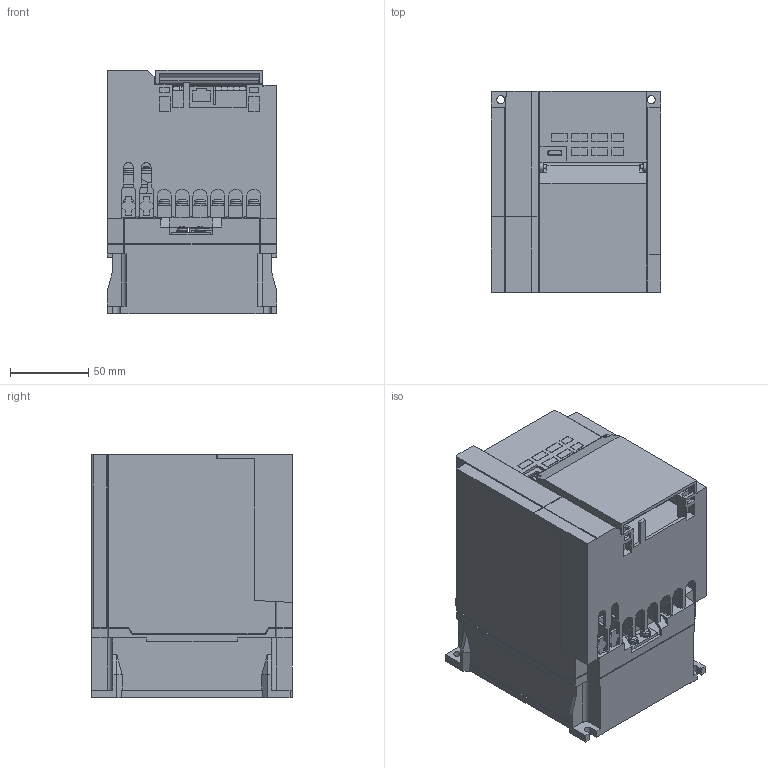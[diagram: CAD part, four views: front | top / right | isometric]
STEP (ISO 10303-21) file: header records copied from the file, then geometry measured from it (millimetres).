
FILE_DESCRIPTION((''),'2;1');
FILE_NAME('3D-INV-52_06_ASM','2024-11-26T14:21:52',('CT89920'),(''),'CREO PARAMETRIC BY PTC INC, 2022281','CREO PARAMETRIC BY PTC INC, 2022281','');
FILE_SCHEMA(('CONFIG_CONTROL_DESIGN','SHAPE_APPEARANCE_LAYERS_GROUPS'));
Length unit declared in the file: millimetre
Products named in the file (9): 3D-BASE-52_06E; 3D-FAN_UNIT-51_05; 3D-TE_SHORT-31_06; 3D-TE_NEJI-M4X8-ZA7; 3D-TE-NEJI-31_04_ASM; 3D-SW-PW-P-M3_5X10; 3D-W_COV-52_06; 3D-S_COV-D80-1_5; 3D-INV-52_06_ASM
Assembly tree (18 placements, depth 3):
  3D-INV-52_06_ASM
    3D-BASE-52_06E
    3D-FAN_UNIT-51_05
    3D-TE-NEJI-31_04_ASM
      3D-TE_SHORT-31_06
      3D-TE_NEJI-M4X8-ZA7  x10
    3D-SW-PW-P-M3_5X10  x2
    3D-W_COV-52_06
    3D-S_COV-D80-1_5
Bounding box: 108 x 128 x 155.5 mm (x, y, z)
Volume: 696771.1 mm3; surface area: 282724.6 mm2
Topology: 17 solids, 18 shells, 1323 faces, 3581 edges, 2305 vertices
Faces by surface type: plane 1081, cylinder 164, cone 28, torus 26, sphere 24
Entity records: 44975 total; most frequent: CARTESIAN_POINT 6524, ORIENTED_EDGE 6398, DIRECTION 5883, EDGE_CURVE 3199, VECTOR 2871, LINE 2871, VERTEX_POINT 2097, PRESENTATION_STYLE_ASSIGNMENT 1748
